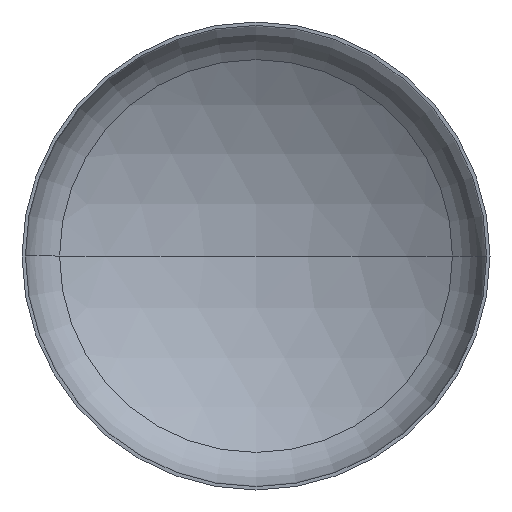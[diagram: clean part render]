
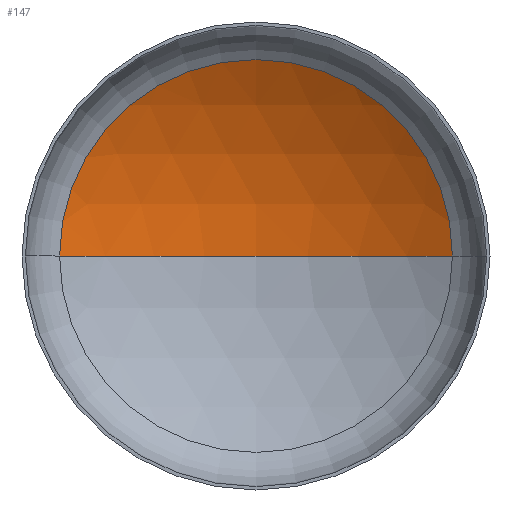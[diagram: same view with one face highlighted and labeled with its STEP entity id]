
A CAD part, front view. The second image highlights one B-rep face of the part: STEP entity #147.
In plain terms, the highlighted spherical face has radius 4400 mm.
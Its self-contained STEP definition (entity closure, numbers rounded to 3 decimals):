
#72 = CARTESIAN_POINT ( 'NONE',  ( 2308.298, 839.383, 0. ) ) ;
#80 = DIRECTION ( 'NONE',  ( -1., 0., 0. ) ) ;
#84 = AXIS2_PLACEMENT_3D ( 'NONE', #139, #135, #260 ) ;
#86 = AXIS2_PLACEMENT_3D ( 'NONE', #166, #155, #149 ) ;
#87 = DIRECTION ( 'NONE',  ( 0., 0., -1. ) ) ;
#90 = AXIS2_PLACEMENT_3D ( 'NONE', #164, #163, #157 ) ;
#96 = CARTESIAN_POINT ( 'NONE',  ( 0., 1493.484, 0. ) ) ;
#99 = CIRCLE ( 'NONE', #90, 2308.298 ) ;
#124 = VERTEX_POINT ( 'NONE', #72 ) ;
#135 = DIRECTION ( 'NONE',  ( 0., 0., 1. ) ) ;
#138 = ORIENTED_EDGE ( 'NONE', *, *, #214, .T. ) ;
#139 = CARTESIAN_POINT ( 'NONE',  ( 0., -2906.516, 0. ) ) ;
#147 = ADVANCED_FACE ( 'NONE', ( #230 ), #361, .F. ) ;
#149 = DIRECTION ( 'NONE',  ( -1., 0., 0. ) ) ;
#154 = AXIS2_PLACEMENT_3D ( 'NONE', #183, #87, #80 ) ;
#155 = DIRECTION ( 'NONE',  ( 0., 0., -1. ) ) ;
#157 = DIRECTION ( 'NONE',  ( 1., 0., 0. ) ) ;
#163 = DIRECTION ( 'NONE',  ( 0., -1., 0. ) ) ;
#164 = CARTESIAN_POINT ( 'NONE',  ( 0., 839.383, 0. ) ) ;
#166 = CARTESIAN_POINT ( 'NONE',  ( 0., -2906.516, 0. ) ) ;
#183 = CARTESIAN_POINT ( 'NONE',  ( 0., -2906.516, 0. ) ) ;
#188 = EDGE_LOOP ( 'NONE', ( #247, #138, #193 ) ) ;
#193 = ORIENTED_EDGE ( 'NONE', *, *, #207, .T. ) ;
#207 = EDGE_CURVE ( 'NONE', #124, #259, #99, .T. ) ;
#214 = EDGE_CURVE ( 'NONE', #375, #124, #410, .T. ) ;
#218 = EDGE_CURVE ( 'NONE', #375, #259, #344, .T. ) ;
#230 = FACE_OUTER_BOUND ( 'NONE', #188, .T. ) ;
#247 = ORIENTED_EDGE ( 'NONE', *, *, #218, .F. ) ;
#252 = CARTESIAN_POINT ( 'NONE',  ( -2308.298, 839.383, 0. ) ) ;
#259 = VERTEX_POINT ( 'NONE', #252 ) ;
#260 = DIRECTION ( 'NONE',  ( 1., 0., 0. ) ) ;
#344 = CIRCLE ( 'NONE', #84, 4400. ) ;
#361 = SPHERICAL_SURFACE ( 'NONE', #154, 4400. ) ;
#375 = VERTEX_POINT ( 'NONE', #96 ) ;
#410 = CIRCLE ( 'NONE', #86, 4400. ) ;
